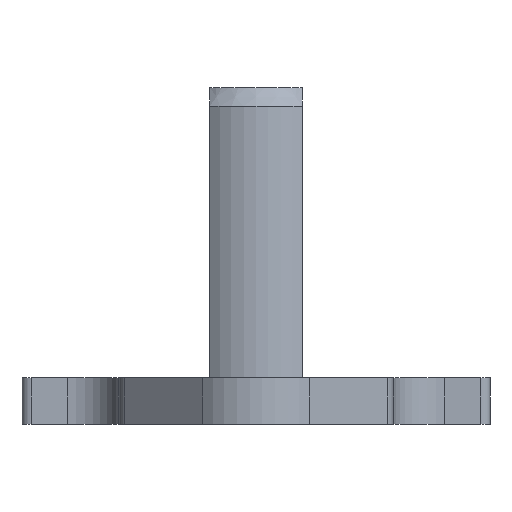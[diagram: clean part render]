
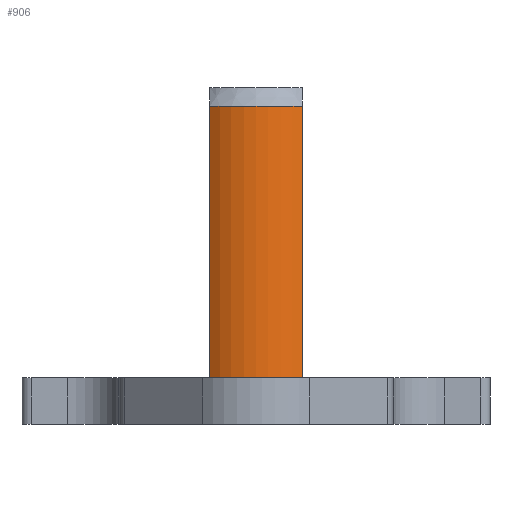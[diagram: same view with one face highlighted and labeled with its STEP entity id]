
A CAD part, front view. The second image highlights one B-rep face of the part: STEP entity #906.
In plain terms, the highlighted cylindrical face has radius 8 mm (diameter 16 mm), a partial arc.
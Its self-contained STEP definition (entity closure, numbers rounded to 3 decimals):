
#85 = VECTOR ( 'NONE', #1086, 1000. ) ;
#134 = LINE ( 'NONE', #1838, #268 ) ;
#266 = FACE_OUTER_BOUND ( 'NONE', #455, .T. ) ;
#268 = VECTOR ( 'NONE', #663, 1000. ) ;
#271 = CARTESIAN_POINT ( 'NONE',  ( 0., -27.5, 24. ) ) ;
#288 = AXIS2_PLACEMENT_3D ( 'NONE', #703, #714, #551 ) ;
#316 = CIRCLE ( 'NONE', #288, 8. ) ;
#380 = ORIENTED_EDGE ( 'NONE', *, *, #1308, .F. ) ;
#455 = EDGE_LOOP ( 'NONE', ( #893, #582, #1690, #380 ) ) ;
#493 = CARTESIAN_POINT ( 'NONE',  ( -4.95, -33.785, 29. ) ) ;
#514 = AXIS2_PLACEMENT_3D ( 'NONE', #271, #1601, #726 ) ;
#521 = VERTEX_POINT ( 'NONE', #925 ) ;
#551 = DIRECTION ( 'NONE',  ( 1., 0., 0. ) ) ;
#567 = EDGE_CURVE ( 'NONE', #1731, #1208, #134, .T. ) ;
#582 = ORIENTED_EDGE ( 'NONE', *, *, #1778, .T. ) ;
#663 = DIRECTION ( 'NONE',  ( 0., 0., -1. ) ) ;
#688 = DIRECTION ( 'NONE',  ( 0., 0., 1. ) ) ;
#703 = CARTESIAN_POINT ( 'NONE',  ( 0., -27.5, 29. ) ) ;
#714 = DIRECTION ( 'NONE',  ( 0., 0., 1. ) ) ;
#726 = DIRECTION ( 'NONE',  ( 1., 0., 0. ) ) ;
#893 = ORIENTED_EDGE ( 'NONE', *, *, #567, .T. ) ;
#906 = ADVANCED_FACE ( 'NONE', ( #266 ), #1724, .T. ) ;
#925 = CARTESIAN_POINT ( 'NONE',  ( 4.95, -33.785, 29. ) ) ;
#946 = CIRCLE ( 'NONE', #1443, 8. ) ;
#1086 = DIRECTION ( 'NONE',  ( 0., 0., 1. ) ) ;
#1115 = CARTESIAN_POINT ( 'NONE',  ( -4.95, -33.785, 0. ) ) ;
#1208 = VERTEX_POINT ( 'NONE', #1115 ) ;
#1232 = CARTESIAN_POINT ( 'NONE',  ( 0., -27.5, 0. ) ) ;
#1308 = EDGE_CURVE ( 'NONE', #1731, #521, #316, .T. ) ;
#1443 = AXIS2_PLACEMENT_3D ( 'NONE', #1232, #688, #1705 ) ;
#1601 = DIRECTION ( 'NONE',  ( 0., 0., 1. ) ) ;
#1690 = ORIENTED_EDGE ( 'NONE', *, *, #1711, .T. ) ;
#1705 = DIRECTION ( 'NONE',  ( 1., 0., 0. ) ) ;
#1711 = EDGE_CURVE ( 'NONE', #1883, #521, #1852, .T. ) ;
#1724 = CYLINDRICAL_SURFACE ( 'NONE', #514, 8. ) ;
#1731 = VERTEX_POINT ( 'NONE', #493 ) ;
#1778 = EDGE_CURVE ( 'NONE', #1208, #1883, #946, .T. ) ;
#1832 = CARTESIAN_POINT ( 'NONE',  ( 4.95, -33.785, 24. ) ) ;
#1838 = CARTESIAN_POINT ( 'NONE',  ( -4.95, -33.785, 24. ) ) ;
#1844 = CARTESIAN_POINT ( 'NONE',  ( 4.95, -33.785, 0. ) ) ;
#1852 = LINE ( 'NONE', #1832, #85 ) ;
#1883 = VERTEX_POINT ( 'NONE', #1844 ) ;
